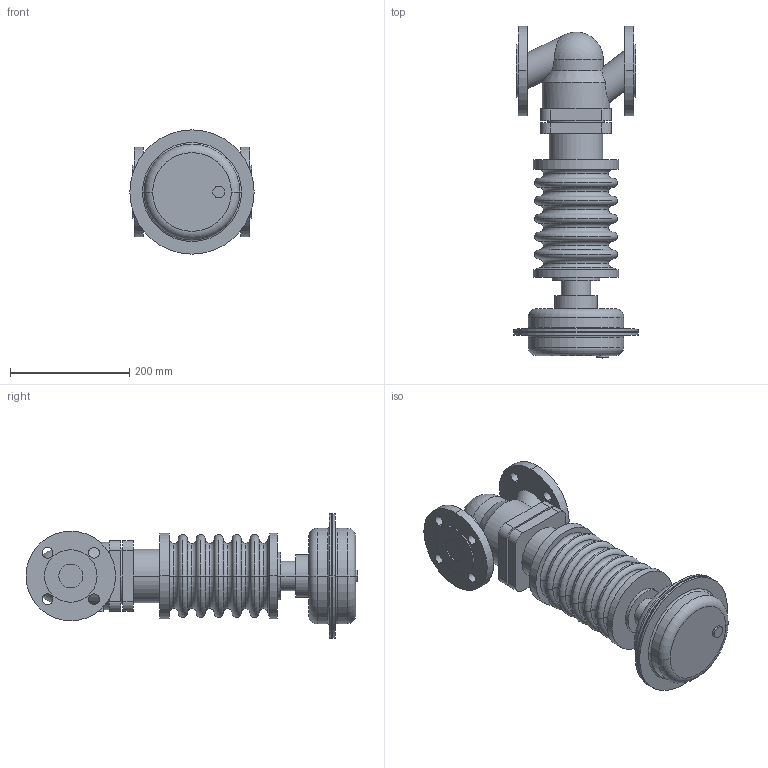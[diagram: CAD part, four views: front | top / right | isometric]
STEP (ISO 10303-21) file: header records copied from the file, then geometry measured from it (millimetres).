
FILE_DESCRIPTION(('OneSpaceDesigner STEP Export'),'2;1');
FILE_NAME('c000000570.stp','2006-08-30T 9:46:12',(''),(''),'OneSpace Designer STEP processor for AP203 (Solid Model)','OneSpace Designer 13.20A 18-Aug-2005 (C) CoCreate Software GmbH','');
FILE_SCHEMA(('CONFIG_CONTROL_DESIGN'));
Length unit declared in the file: millimetre
Products named in the file (1): 2
Bounding box: 208 x 556 x 208 mm (x, y, z)
Volume: 6810273.3 mm3; surface area: 448662.4 mm2
Topology: 1 solids, 1 shells, 176 faces, 411 edges, 260 vertices
Faces by surface type: cylinder 70, torus 54, plane 48, cone 2, sphere 2
Entity records: 4577 total; most frequent: CARTESIAN_POINT 921, ORIENTED_EDGE 818, DIRECTION 666, EDGE_CURVE 409, AXIS2_PLACEMENT_3D 269, VERTEX_POINT 260, EDGE_LOOP 217, FACE_OUTER_BOUND 176
